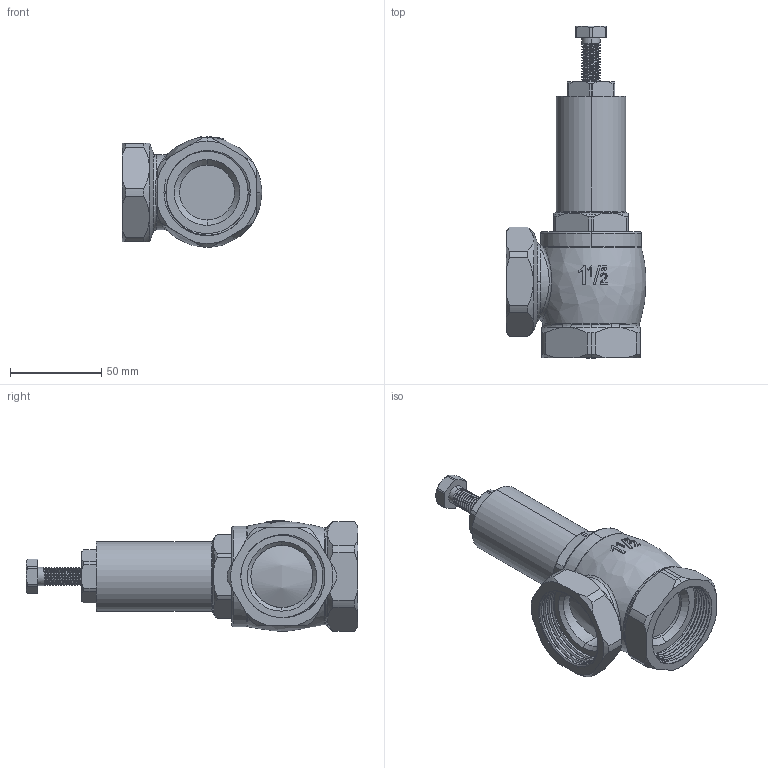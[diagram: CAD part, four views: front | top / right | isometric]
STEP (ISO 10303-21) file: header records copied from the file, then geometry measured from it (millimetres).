
FILE_DESCRIPTION (( 'STEP AP214' ), '1' );
FILE_NAME ('Êëàïàí ïðåäîõðàíèòåëüíûé TSV-40 — êîïèÿ.STEP', '2026-10-07T12:19:15', ( '' ), ( '' ), 'SwSTEP 2.0', 'SolidWorks 2023', '' );
FILE_SCHEMA (( 'AUTOMOTIVE_DESIGN' ));
Length unit declared in the file: millimetre
Products named in the file (1): Клапан предохранительный TSV-40 — копия
Bounding box: 76.56 x 181.6 x 60.66 mm (x, y, z)
Volume: 267260.1 mm3; surface area: 40252.1 mm2
Topology: 1 solids, 1 shells, 281 faces, 754 edges, 489 vertices
Faces by surface type: cylinder 94, cone 64, bspline 57, plane 43, torus 23
Entity records: 19067 total; most frequent: CARTESIAN_POINT 12771, ORIENTED_EDGE 1508, DIRECTION 1096, EDGE_CURVE 754, VERTEX_POINT 489, AXIS2_PLACEMENT_3D 458, EDGE_LOOP 295, FACE_OUTER_BOUND 281
